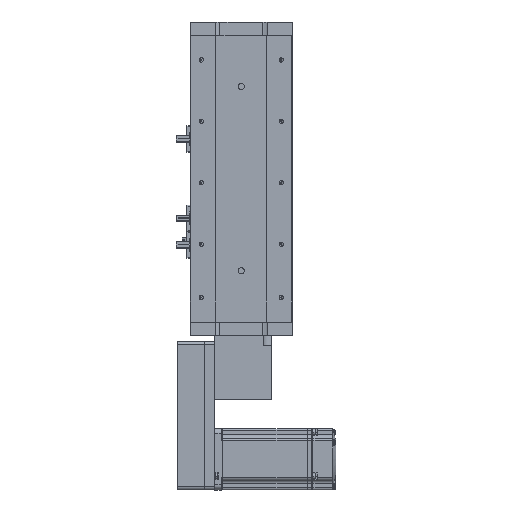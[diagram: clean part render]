
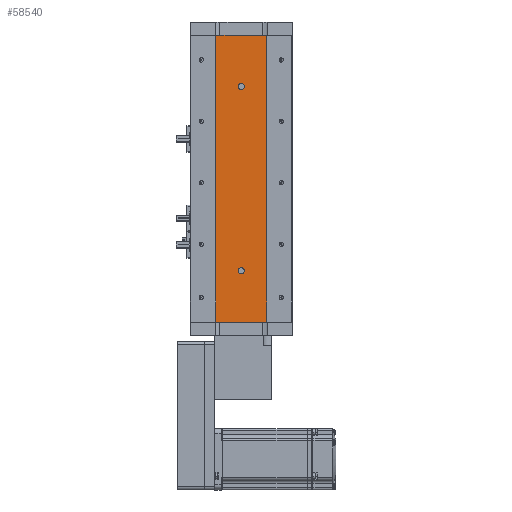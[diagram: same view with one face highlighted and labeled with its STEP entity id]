
A CAD part, left-side view. The second image highlights one B-rep face of the part: STEP entity #58540.
In plain terms, the highlighted planar face has unit normal (-1, 0, 0).
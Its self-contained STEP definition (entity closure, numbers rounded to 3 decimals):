
#50 = ORIENTED_EDGE ( 'NONE', *, *, #36230, .F. ) ;
#1916 = EDGE_CURVE ( 'NONE', #17220, #55411, #52455, .T. ) ;
#2122 = ORIENTED_EDGE ( 'NONE', *, *, #54283, .T. ) ;
#6210 = PLANE ( 'NONE',  #25794 ) ;
#7306 = CARTESIAN_POINT ( 'NONE',  ( -18.926, 24.785, 0. ) ) ;
#7774 = CARTESIAN_POINT ( 'NONE',  ( -18.926, 0., 53. ) ) ;
#9290 = CIRCLE ( 'NONE', #12999, 3. ) ;
#9386 = EDGE_CURVE ( 'NONE', #56004, #55411, #47266, .T. ) ;
#10264 = FACE_OUTER_BOUND ( 'NONE', #12423, .T. ) ;
#11190 = VECTOR ( 'NONE', #53811, 1000. ) ;
#12032 = DIRECTION ( 'NONE',  ( 0., -1., 0. ) ) ;
#12423 = EDGE_LOOP ( 'NONE', ( #42556, #46016, #15609, #2122 ) ) ;
#12868 = DIRECTION ( 'NONE',  ( -1., 0., 0. ) ) ;
#12999 = AXIS2_PLACEMENT_3D ( 'NONE', #19700, #52620, #24460 ) ;
#14283 = AXIS2_PLACEMENT_3D ( 'NONE', #56377, #28154, #61107 ) ;
#14327 = ORIENTED_EDGE ( 'NONE', *, *, #18205, .F. ) ;
#14888 = VECTOR ( 'NONE', #12032, 1000. ) ;
#15609 = ORIENTED_EDGE ( 'NONE', *, *, #44614, .F. ) ;
#16100 = CIRCLE ( 'NONE', #14283, 3. ) ;
#16739 = VECTOR ( 'NONE', #54692, 1000. ) ;
#17220 = VERTEX_POINT ( 'NONE', #38405 ) ;
#18205 = EDGE_CURVE ( 'NONE', #27502, #51042, #50398, .T. ) ;
#18544 = VERTEX_POINT ( 'NONE', #40449 ) ;
#19095 = CARTESIAN_POINT ( 'NONE',  ( -18.926, -24.785, 280. ) ) ;
#19281 = DIRECTION ( 'NONE',  ( -1., 0., 0. ) ) ;
#19700 = CARTESIAN_POINT ( 'NONE',  ( -18.926, 0., 50. ) ) ;
#20862 = CARTESIAN_POINT ( 'NONE',  ( -18.926, -24.785, 280. ) ) ;
#21737 = CARTESIAN_POINT ( 'NONE',  ( -18.926, 24.785, 280. ) ) ;
#21816 = CARTESIAN_POINT ( 'NONE',  ( -18.926, 24.785, 280. ) ) ;
#22853 = FACE_BOUND ( 'NONE', #50262, .T. ) ;
#23172 = EDGE_CURVE ( 'NONE', #18544, #29886, #9290, .T. ) ;
#24460 = DIRECTION ( 'NONE',  ( 0., 0., 1. ) ) ;
#25184 = DIRECTION ( 'NONE',  ( 1., 0., 0. ) ) ;
#25794 = AXIS2_PLACEMENT_3D ( 'NONE', #53355, #25184, #58070 ) ;
#27502 = VERTEX_POINT ( 'NONE', #45813 ) ;
#27780 = LINE ( 'NONE', #21737, #16739 ) ;
#28154 = DIRECTION ( 'NONE',  ( -1., 0., 0. ) ) ;
#29886 = VERTEX_POINT ( 'NONE', #7774 ) ;
#32725 = CARTESIAN_POINT ( 'NONE',  ( -18.926, -24.785, 0. ) ) ;
#33881 = FACE_BOUND ( 'NONE', #43523, .T. ) ;
#36230 = EDGE_CURVE ( 'NONE', #29886, #18544, #43651, .T. ) ;
#38405 = CARTESIAN_POINT ( 'NONE',  ( -18.926, 24.785, 0. ) ) ;
#38602 = ORIENTED_EDGE ( 'NONE', *, *, #23172, .F. ) ;
#40449 = CARTESIAN_POINT ( 'NONE',  ( -18.926, 0., 47. ) ) ;
#41047 = CARTESIAN_POINT ( 'NONE',  ( -18.926, 0., 50. ) ) ;
#42556 = ORIENTED_EDGE ( 'NONE', *, *, #1916, .T. ) ;
#43523 = EDGE_LOOP ( 'NONE', ( #14327, #48358 ) ) ;
#43651 = CIRCLE ( 'NONE', #44827, 3. ) ;
#44262 = EDGE_CURVE ( 'NONE', #51042, #27502, #16100, .T. ) ;
#44614 = EDGE_CURVE ( 'NONE', #52407, #56004, #27780, .T. ) ;
#44827 = AXIS2_PLACEMENT_3D ( 'NONE', #41047, #12868, #45777 ) ;
#45244 = DIRECTION ( 'NONE',  ( 0., 0., -1. ) ) ;
#45777 = DIRECTION ( 'NONE',  ( 0., 0., 1. ) ) ;
#45813 = CARTESIAN_POINT ( 'NONE',  ( -18.926, 0., 233. ) ) ;
#46016 = ORIENTED_EDGE ( 'NONE', *, *, #9386, .F. ) ;
#47266 = LINE ( 'NONE', #20862, #11190 ) ;
#47463 = CARTESIAN_POINT ( 'NONE',  ( -18.926, 0., 230. ) ) ;
#47550 = CARTESIAN_POINT ( 'NONE',  ( -18.926, 24.785, 280. ) ) ;
#48138 = VECTOR ( 'NONE', #45244, 1000. ) ;
#48358 = ORIENTED_EDGE ( 'NONE', *, *, #44262, .F. ) ;
#49052 = CARTESIAN_POINT ( 'NONE',  ( -18.926, 0., 227. ) ) ;
#50262 = EDGE_LOOP ( 'NONE', ( #50, #38602 ) ) ;
#50398 = CIRCLE ( 'NONE', #56387, 3. ) ;
#51042 = VERTEX_POINT ( 'NONE', #49052 ) ;
#52222 = DIRECTION ( 'NONE',  ( 0., 0., 1. ) ) ;
#52407 = VERTEX_POINT ( 'NONE', #47550 ) ;
#52455 = LINE ( 'NONE', #7306, #14888 ) ;
#52620 = DIRECTION ( 'NONE',  ( -1., 0., 0. ) ) ;
#53355 = CARTESIAN_POINT ( 'NONE',  ( -18.926, 24.785, 280. ) ) ;
#53811 = DIRECTION ( 'NONE',  ( 0., 0., -1. ) ) ;
#54283 = EDGE_CURVE ( 'NONE', #52407, #17220, #60684, .T. ) ;
#54692 = DIRECTION ( 'NONE',  ( 0., -1., 0. ) ) ;
#55411 = VERTEX_POINT ( 'NONE', #32725 ) ;
#56004 = VERTEX_POINT ( 'NONE', #19095 ) ;
#56377 = CARTESIAN_POINT ( 'NONE',  ( -18.926, 0., 230. ) ) ;
#56387 = AXIS2_PLACEMENT_3D ( 'NONE', #47463, #19281, #52222 ) ;
#58070 = DIRECTION ( 'NONE',  ( 0., 0., -1. ) ) ;
#58540 = ADVANCED_FACE ( 'NONE', ( #22853, #33881, #10264 ), #6210, .F. ) ;
#60684 = LINE ( 'NONE', #21816, #48138 ) ;
#61107 = DIRECTION ( 'NONE',  ( 0., 0., 1. ) ) ;
